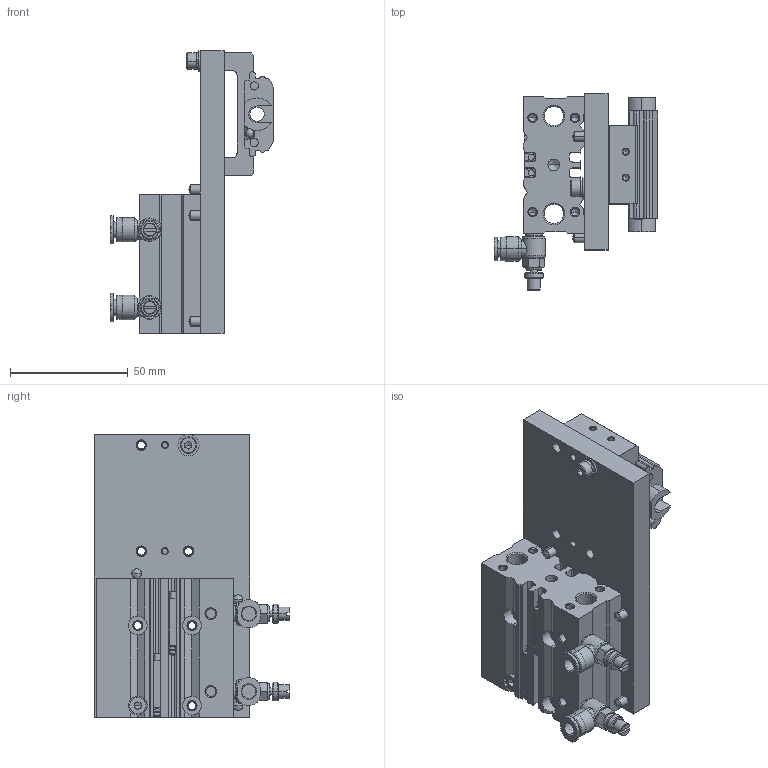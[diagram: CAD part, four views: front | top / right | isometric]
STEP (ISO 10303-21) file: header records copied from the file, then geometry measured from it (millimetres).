
FILE_DESCRIPTION (( 'STEP AP214' ), '1' );
FILE_NAME ('14_X-Y-Z_directions_movable_and_continuity_inspection_mechanism_Y.STEP', '2021-02-09T02:14:09', ( '' ), ( '' ), 'SwSTEP 2.0', 'SolidWorks 2017', '' );
FILE_SCHEMA (( 'AUTOMOTIVE_DESIGN' ));
Length unit declared in the file: millimetre
Products named in the file (19): _0405_SSA01; 0405_009_MS3-8; _0405_SA02; _0405_SA03; 0405_001_LXM2001C-T4-D4-3-2-L-150; 0405_010_MS4-10; 0405_003_MGCLF12-30; 0405_303_CBM4-30; _0405_Assy; 0405_206_Plate; 14_X-Y-Z_directions_movable_and_continuity_inspection_mechanism_Y; 0405_Z_CBST4-20_3; 0405_004_MD13L1; 0405_012_CBST4-20; 0405_005_MNSPS6-M5; 0405_Z_CBST4-20_1; 0405_Z_CBST4-20_2; 0405_Z_MGCLF12-30_2; 0405_Z_LXM2001C-T4-D4-3-2-L-150_12
Assembly tree (23 placements, depth 6):
  14_X-Y-Z_directions_movable_and_continuity_inspection_mechanism_Y
    _0405_Assy
      _0405_SA02
        0405_001_LXM2001C-T4-D4-3-2-L-150
          0405_Z_LXM2001C-T4-D4-3-2-L-150_12
        0405_009_MS3-8  x2
      _0405_SA03
        _0405_SSA01
          0405_003_MGCLF12-30
            0405_Z_MGCLF12-30_2
          0405_004_MD13L1  x2
          0405_005_MNSPS6-M5  x2
        0405_010_MS4-10  x3
        0405_012_CBST4-20
          0405_Z_CBST4-20_1
          0405_Z_CBST4-20_2
          0405_Z_CBST4-20_3
        0405_206_Plate
        0405_303_CBM4-30
Bounding box: 69.2 x 83 x 120 mm (x, y, z)
Volume: 180605.2 mm3; surface area: 58569.9 mm2
Topology: 16 solids, 16 shells, 774 faces, 1900 edges, 1172 vertices
Faces by surface type: plane 280, cylinder 279, cone 204, bspline 11
Entity records: 26010 total; most frequent: CARTESIAN_POINT 3403, DIRECTION 3394, ORIENTED_EDGE 3004, EDGE_CURVE 1502, AXIS2_PLACEMENT_3D 1288, VERTEX_POINT 953, VECTOR 818, LINE 818
